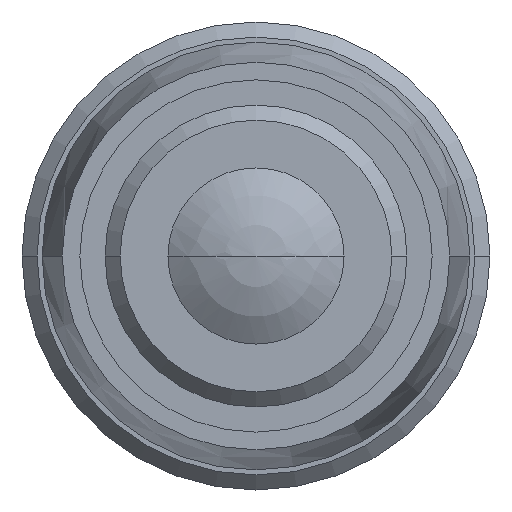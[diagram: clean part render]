
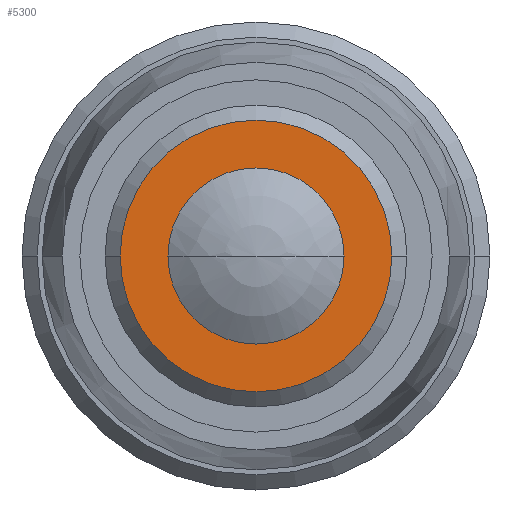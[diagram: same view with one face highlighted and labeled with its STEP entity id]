
A CAD part, left-side view. The second image highlights one B-rep face of the part: STEP entity #5300.
In plain terms, the highlighted planar face has unit normal (-1, 0, 0).
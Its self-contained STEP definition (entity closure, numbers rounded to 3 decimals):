
#4240=CARTESIAN_POINT('',(28.134,3.235,
0.));
#4250=VERTEX_POINT('965005-1663825556-b88584a677cb-0 282718',#4240);
#4280=CARTESIAN_POINT('',(28.134,1.485,0.));
#4290=DIRECTION('',(1.,0.,0.));
#4300=DIRECTION('',(0.,1.,0.));
#4310=AXIS2_PLACEMENT_3D('',#4280,#4290,#4300);
#4320=CIRCLE('',#4310,1.75);
#4330=CARTESIAN_POINT('',(28.134,-0.265,0.));
#4340=VERTEX_POINT('',#4330);
#4350=EDGE_CURVE('965005-1663825556-b88584a677cb-0 282960',#4250,#4340,
#4320,.T.);
#5050=CARTESIAN_POINT('',(28.134,3.71,0.));
#5060=DIRECTION('',(1.,0.,0.));
#5070=DIRECTION('',(0.,-1.,0.));
#5080=AXIS2_PLACEMENT_3D('',#5050,#5060,#5070);
#5090=PLANE('',#5080);
#5100=CARTESIAN_POINT('',(28.134,1.485,0.));
#5110=DIRECTION('',(-1.,-0.,0.));
#5120=DIRECTION('',(0.,-1.,0.));
#5130=AXIS2_PLACEMENT_3D('',#5100,#5110,#5120);
#5140=CIRCLE('',#5130,2.7);
#5150=CARTESIAN_POINT('',(28.134,4.185,
0.));
#5160=VERTEX_POINT('965005-1663825556-b88584a677cb-0 282714',#5150);
#5170=CARTESIAN_POINT('',(28.134,-1.215,0.));
#5180=VERTEX_POINT('',#5170);
#5190=EDGE_CURVE('965005-1663825556-b88584a677cb-0 282938',#5160,#5180,
#5140,.T.);
#5200=ORIENTED_EDGE('',*,*,#5190,.T.);
#5210=EDGE_CURVE('965005-1663825556-b88584a677cb-0 282938',#5180,#5160,
#5140,.T.);
#5220=ORIENTED_EDGE('',*,*,#5210,.T.);
#5230=EDGE_LOOP('',(#5220,#5200));
#5240=FACE_OUTER_BOUND('',#5230,.T.);
#5250=ORIENTED_EDGE('',*,*,#4350,.T.);
#5260=EDGE_CURVE('965005-1663825556-b88584a677cb-0 282960',#4340,#4250,
#4320,.T.);
#5270=ORIENTED_EDGE('',*,*,#5260,.T.);
#5280=EDGE_LOOP('',(#5270,#5250));
#5290=FACE_BOUND('',#5280,.T.);
#5300=ADVANCED_FACE('965005-1663825556-b88584a677cb-0 282956',(#5240,
#5290),#5090,.F.);
